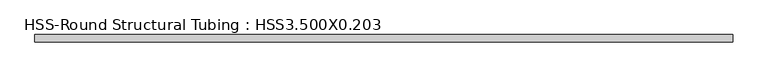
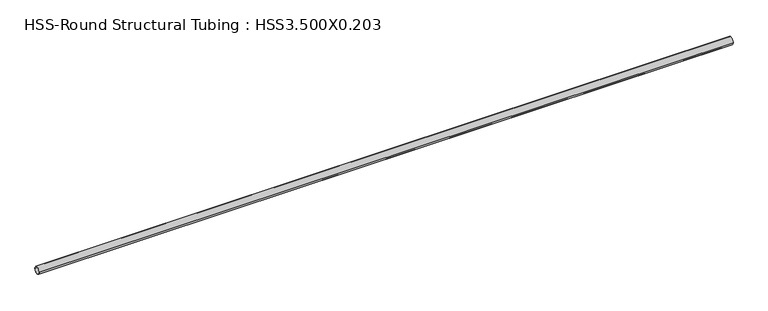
"""IFC4 building model written with IfcOpenShell, lengths in millimetres: beam geometry, HSS-Round Structural Tubing : HSS3.500X0.203."""

from ifc_helpers import new_model, si_unit, point, frame, origin, origin_2d, place, context, project, spatial, circle_curve, trimmed, segment, composite_curve, outline, extrude, source, transform, mapped, element, save


def hss_round_structural_tubing_hss3_500x0_203_bc24e7bf(model_context):
    return source(origin(), model_context, "Body", "SweptSolid", [
        extrude(outline(composite_curve([segment(trimmed(circle_curve(origin_2d(), 44.45), [point((-44.45, 0.0))], [point((44.45, 0.0))], False, "CARTESIAN"), True, "CONTINUOUS"), segment(trimmed(circle_curve(origin_2d(), 44.45), [point((44.45, 0.0))], [point((-44.45, 0.0))], False, "CARTESIAN"), True, "CONTINUOUS")], self_intersect=False), holes=[composite_curve([segment(trimmed(circle_curve(origin_2d(), 39.6494), [point((39.6494, 0.0))], [point((-39.6494, 0.0))], True, "CARTESIAN"), True, "CONTINUOUS"), segment(trimmed(circle_curve(origin_2d(), 39.6494), [point((-39.6494, 0.0))], [point((39.6494, 0.0))], True, "CARTESIAN"), True, "CONTINUOUS")], self_intersect=False)]), frame((-4236.5097622, 0.0, 0.0), z_axis=(1.0, 0.0, 0.0), x_axis=(0.0, 1.0, 0.0)), (0.0, 0.0, 1.0), 8419.9723076),
    ])


if __name__ == "__main__":
    model = new_model("IFC4")
    model_context = context("Model", 3, world=origin())
    ifc_project = project(units=[si_unit("LENGTHUNIT", "METRE", prefix="MILLI")], contexts=[model_context])
    site = spatial("IfcSite", under=ifc_project)
    building = spatial("IfcBuilding", under=site)
    placement = place(None, origin())
    hss_round_structural_tubing_hss3_500x0_203_shape = hss_round_structural_tubing_hss3_500x0_203_bc24e7bf(model_context)
    element("IfcBeam", 1, ObjectType="HSS-Round Structural Tubing : HSS3.500X0.203", at=placement, inside=building, context=model_context, shape_type="MappedRepresentation", body=[
        mapped(hss_round_structural_tubing_hss3_500x0_203_shape, transform((0.0, 0.0, 0.0), x_axis=(1.0, 0.0, 0.0), y_axis=(0.0, 1.0, 0.0), z_axis=(0.0, 0.0, 1.0))),
    ])
    save(model, "model.ifc")
